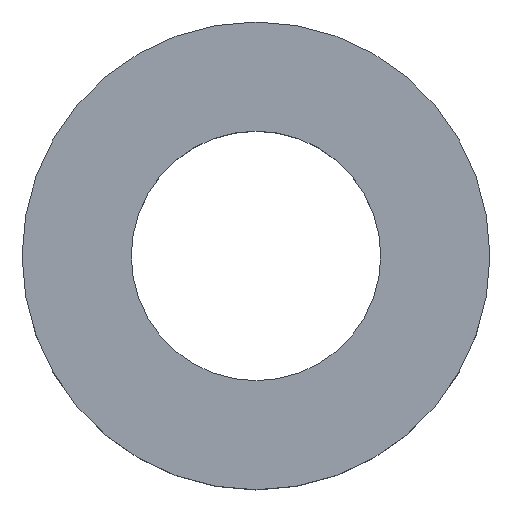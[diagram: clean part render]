
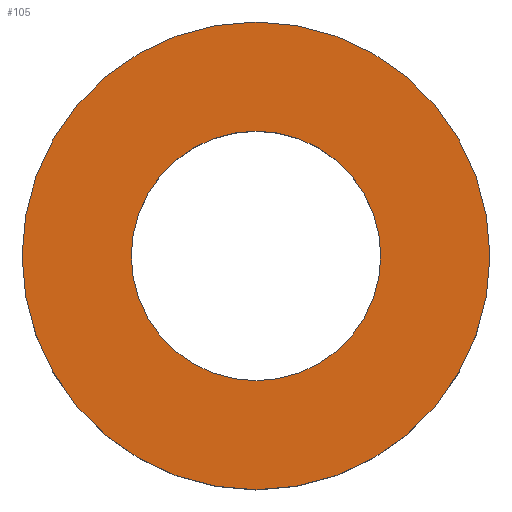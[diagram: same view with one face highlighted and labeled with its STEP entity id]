
A CAD part, top view. The second image highlights one B-rep face of the part: STEP entity #105.
In plain terms, the highlighted planar face has unit normal (0, 0, 1).
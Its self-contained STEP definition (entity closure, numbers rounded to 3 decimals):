
#21 = EDGE_CURVE('',#22,#22,#24,.T.);
#22 = VERTEX_POINT('',#23);
#23 = CARTESIAN_POINT('',(15.,0.,8.));
#24 = SURFACE_CURVE('',#25,(#30,#42),.PCURVE_S1.);
#25 = CIRCLE('',#26,15.);
#26 = AXIS2_PLACEMENT_3D('',#27,#28,#29);
#27 = CARTESIAN_POINT('',(0.,0.,8.));
#28 = DIRECTION('',(0.,0.,1.));
#29 = DIRECTION('',(1.,0.,-0.));
#30 = PCURVE('',#31,#36);
#31 = CYLINDRICAL_SURFACE('',#32,15.);
#32 = AXIS2_PLACEMENT_3D('',#33,#34,#35);
#33 = CARTESIAN_POINT('',(0.,0.,0.));
#34 = DIRECTION('',(0.,0.,1.));
#35 = DIRECTION('',(1.,0.,-0.));
#36 = DEFINITIONAL_REPRESENTATION('',(#37),#41);
#37 = LINE('',#38,#39);
#38 = CARTESIAN_POINT('',(0.,8.));
#39 = VECTOR('',#40,1.);
#40 = DIRECTION('',(1.,0.));
#41 = ( GEOMETRIC_REPRESENTATION_CONTEXT(2) 
PARAMETRIC_REPRESENTATION_CONTEXT() REPRESENTATION_CONTEXT('2D SPACE',''
  ) );
#42 = PCURVE('',#43,#48);
#43 = PLANE('',#44);
#44 = AXIS2_PLACEMENT_3D('',#45,#46,#47);
#45 = CARTESIAN_POINT('',(0.,0.,8.));
#46 = DIRECTION('',(0.,0.,1.));
#47 = DIRECTION('',(1.,0.,-0.));
#48 = DEFINITIONAL_REPRESENTATION('',(#49),#53);
#49 = CIRCLE('',#50,15.);
#50 = AXIS2_PLACEMENT_2D('',#51,#52);
#51 = CARTESIAN_POINT('',(0.,0.));
#52 = DIRECTION('',(1.,0.));
#53 = ( GEOMETRIC_REPRESENTATION_CONTEXT(2) 
PARAMETRIC_REPRESENTATION_CONTEXT() REPRESENTATION_CONTEXT('2D SPACE',''
  ) );
#105 = ADVANCED_FACE('',(#106,#109),#43,.T.);
#106 = FACE_BOUND('',#107,.T.);
#107 = EDGE_LOOP('',(#108));
#108 = ORIENTED_EDGE('',*,*,#21,.T.);
#109 = FACE_BOUND('',#110,.T.);
#110 = EDGE_LOOP('',(#111));
#111 = ORIENTED_EDGE('',*,*,#112,.F.);
#112 = EDGE_CURVE('',#113,#113,#115,.T.);
#113 = VERTEX_POINT('',#114);
#114 = CARTESIAN_POINT('',(8.,0.,8.));
#115 = SURFACE_CURVE('',#116,(#121,#128),.PCURVE_S1.);
#116 = CIRCLE('',#117,8.);
#117 = AXIS2_PLACEMENT_3D('',#118,#119,#120);
#118 = CARTESIAN_POINT('',(0.,0.,8.));
#119 = DIRECTION('',(0.,0.,1.));
#120 = DIRECTION('',(1.,0.,-0.));
#121 = PCURVE('',#43,#122);
#122 = DEFINITIONAL_REPRESENTATION('',(#123),#127);
#123 = CIRCLE('',#124,8.);
#124 = AXIS2_PLACEMENT_2D('',#125,#126);
#125 = CARTESIAN_POINT('',(0.,0.));
#126 = DIRECTION('',(1.,0.));
#127 = ( GEOMETRIC_REPRESENTATION_CONTEXT(2) 
PARAMETRIC_REPRESENTATION_CONTEXT() REPRESENTATION_CONTEXT('2D SPACE',''
  ) );
#128 = PCURVE('',#129,#134);
#129 = CYLINDRICAL_SURFACE('',#130,8.);
#130 = AXIS2_PLACEMENT_3D('',#131,#132,#133);
#131 = CARTESIAN_POINT('',(0.,0.,-1.));
#132 = DIRECTION('',(0.,0.,1.));
#133 = DIRECTION('',(1.,0.,-0.));
#134 = DEFINITIONAL_REPRESENTATION('',(#135),#139);
#135 = LINE('',#136,#137);
#136 = CARTESIAN_POINT('',(0.,9.));
#137 = VECTOR('',#138,1.);
#138 = DIRECTION('',(1.,0.));
#139 = ( GEOMETRIC_REPRESENTATION_CONTEXT(2) 
PARAMETRIC_REPRESENTATION_CONTEXT() REPRESENTATION_CONTEXT('2D SPACE',''
  ) );
